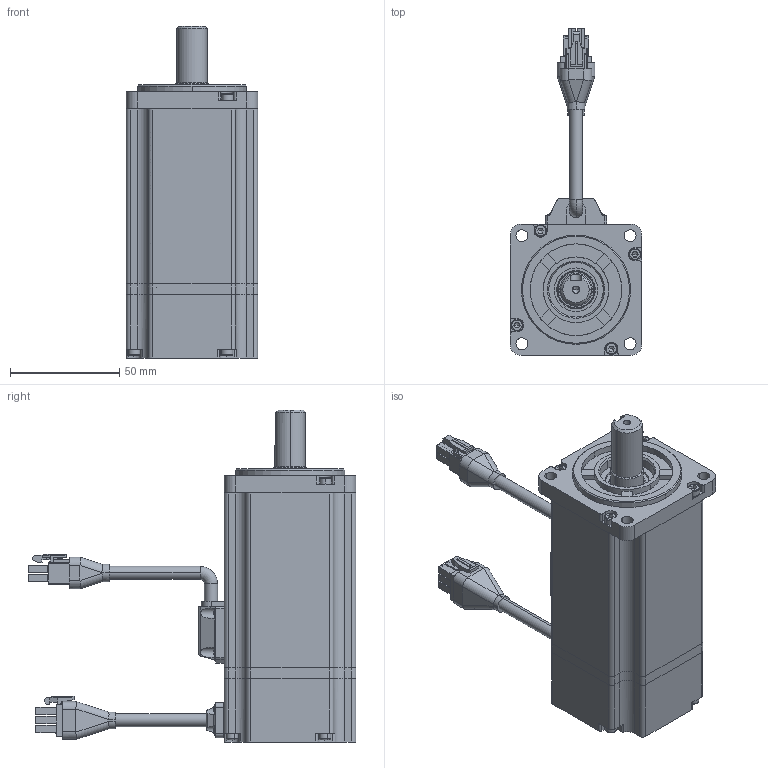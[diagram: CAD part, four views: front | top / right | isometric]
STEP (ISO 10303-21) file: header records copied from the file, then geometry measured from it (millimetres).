
FILE_DESCRIPTION (( 'STEP AP203' ), '1' );
FILE_NAME ('R60-400.STEP', '2019-08-23T05:42:22', ( '1' ), ( 'MideaGroup IT' ), 'SwSTEP 2.0', 'SolidWorks 2012', '' );
FILE_SCHEMA (( 'CONFIG_CONTROL_DESIGN' ));
Length unit declared in the file: millimetre
Products named in the file (25): R60-400; M3X28_GB_FASTENER_SCREWS_HSHCS M3X25-C; 雄薯盄揤裔郪璃; 雄薯盄傷赽裔; 雄薯盄; 雄薯盄傷赽; 雄薯盄躇猾菜; 雄薯盄揤裔; 毀嚏盄揤裔郪璃; 毀嚏盄傷赽揤裔; M2.5X5_GB_CROSS_SCREWS_TYPE3 M2.5X8-8-N; 晤鎢ん盄傷赽; 晤鎢ん盄揤裔躇猾; 晤鎢ん盄揤裔; 蛌赽郪璃-001; 6003; 6003_qiu; 6003_bq; 6003_nh; 6003_wq; 萇儂粣-001; 綴裔-001; 綴傷裔-001; ヶ傷裔-001; 儂褲-001
Assembly tree (48 placements, depth 4):
  R60-400
    儂褲-001
    ヶ傷裔-001
    綴傷裔-001
    綴裔-001
    蛌赽郪璃-001
      萇儂粣-001
      6003
        6003_wq
        6003_nh
        6003_bq
        6003_qiu  x11
    毀嚏盄揤裔郪璃
      晤鎢ん盄揤裔
      晤鎢ん盄揤裔躇猾
      晤鎢ん盄傷赽
      M2.5X5_GB_CROSS_SCREWS_TYPE3 M2.5X8-8-N  x4
      毀嚏盄傷赽揤裔
    雄薯盄揤裔郪璃
      雄薯盄揤裔
      雄薯盄躇猾菜
      雄薯盄傷赽
      雄薯盄
      M2.5X5_GB_CROSS_SCREWS_TYPE3 M2.5X8-8-N  x4
      雄薯盄傷赽裔
    M3X28_GB_FASTENER_SCREWS_HSHCS M3X25-C  x8
Bounding box: 60.2 x 150 x 152 mm (x, y, z)
Volume: 151903.1 mm3; surface area: 104019.9 mm2
Topology: 46 solids, 72 shells, 1568 faces, 4258 edges, 2806 vertices
Faces by surface type: plane 766, cylinder 605, cone 89, torus 56, sphere 38, bspline 14
Entity records: 46343 total; most frequent: CARTESIAN_POINT 11933, DIRECTION 6586, ORIENTED_EDGE 6281, EDGE_CURVE 3321, AXIS2_PLACEMENT_3D 2329, VERTEX_POINT 2210, LINE 1928, VECTOR 1928
